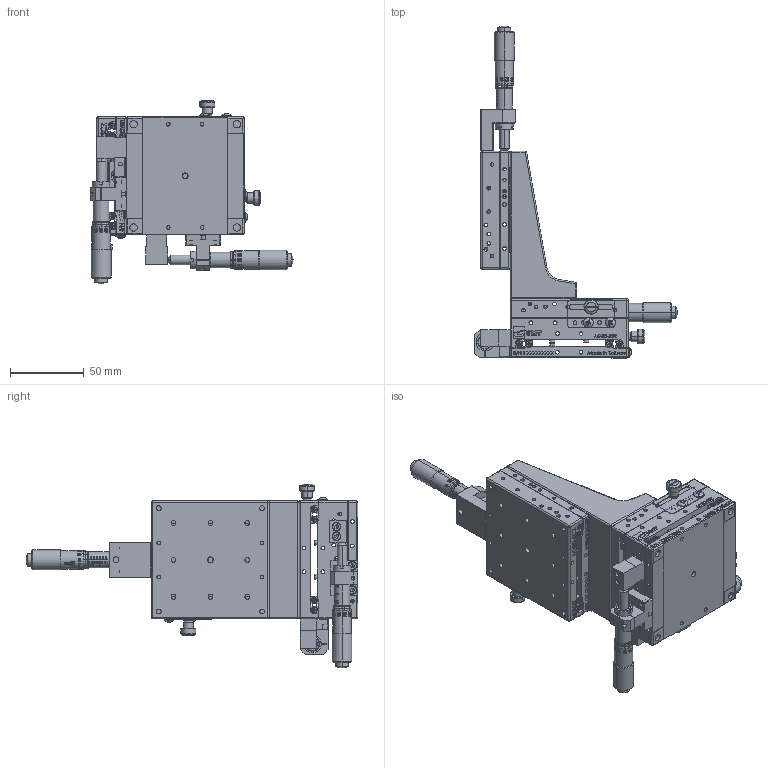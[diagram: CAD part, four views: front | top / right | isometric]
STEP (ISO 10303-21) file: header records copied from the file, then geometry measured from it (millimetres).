
FILE_DESCRIPTION (( 'STEP AP203' ), '1' );
FILE_NAME ('MXYZ80-SR.STEP', '2013-12-25T05:13:49', ( 'user' ), ( '' ), 'SwSTEP 2.0', 'SolidWorks 2013', '' );
FILE_SCHEMA (( 'CONFIG_CONTROL_DESIGN' ));
Products named in the file (1): MXYZ80-SR
Bounding box: 137.25 x 225 x 124.65 mm (x, y, z)
Surface area: 140700.7 mm2 (no closed solid volume)
Topology: 0 solids, 244 shells, 1851 faces, 10671 edges, 8716 vertices
Faces by surface type: plane 849, cylinder 705, cone 124, torus 106, sphere 45, bspline 22
Entity records: 134192 total; most frequent: CARTESIAN_POINT 56328, DIRECTION 15092, ORIENTED_EDGE 14038, EDGE_CURVE 10600, VERTEX_POINT 8716, LINE 5146, VECTOR 5146, AXIS2_PLACEMENT_3D 4973
